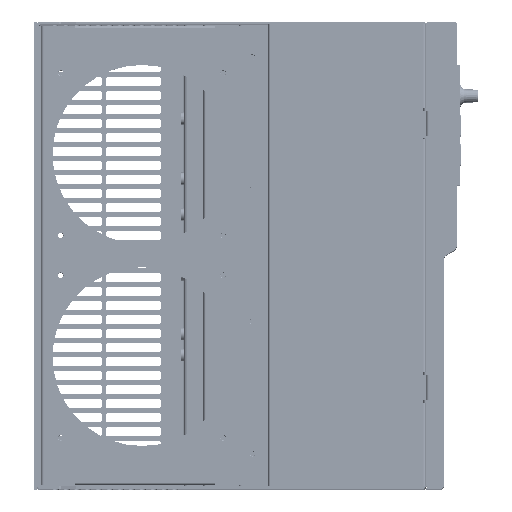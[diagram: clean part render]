
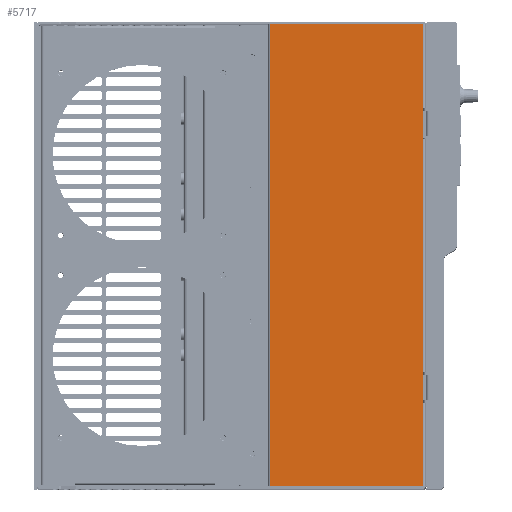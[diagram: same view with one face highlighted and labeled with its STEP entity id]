
A CAD part, top view. The second image highlights one B-rep face of the part: STEP entity #5717.
In plain terms, the highlighted planar face has unit normal (0, 0, 1) as drawn and (0, -1, 0) by its records, which use the part's own axes.
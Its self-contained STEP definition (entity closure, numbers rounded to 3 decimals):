
#5717=ADVANCED_FACE('',(#21139),#21141,.T.);
#21139=FACE_BOUND('',#21140,.T.);
#21140=EDGE_LOOP('',(#48331,#48332,#48333,#48334,#48335,#48336,#48337,#48338));
#21141=PLANE('',#21142);
#21142=AXIS2_PLACEMENT_3D('',#21143,#21144,#21145);
#21143=CARTESIAN_POINT('',(0.,0.,0.));
#21144=DIRECTION('',(0.,-1.,0.));
#21145=DIRECTION('',(-1.,0.,0.));
#48331=ORIENTED_EDGE('',*,*,#66245,.T.);
#48332=ORIENTED_EDGE('',*,*,#66236,.T.);
#48333=ORIENTED_EDGE('',*,*,#66246,.T.);
#48334=ORIENTED_EDGE('',*,*,#66239,.T.);
#48335=ORIENTED_EDGE('',*,*,#66247,.T.);
#48336=ORIENTED_EDGE('',*,*,#66248,.T.);
#48337=ORIENTED_EDGE('',*,*,#66249,.T.);
#48338=ORIENTED_EDGE('',*,*,#66232,.T.);
#66232=EDGE_CURVE('',#76701,#76699,#76702,.T.);
#66236=EDGE_CURVE('',#76704,#76706,#76708,.T.);
#66239=EDGE_CURVE('',#76709,#76711,#76713,.T.);
#66245=EDGE_CURVE('',#76699,#76704,#76721,.F.);
#66246=EDGE_CURVE('',#76706,#76709,#76722,.F.);
#66247=EDGE_CURVE('',#76711,#76723,#76724,.T.);
#66248=EDGE_CURVE('',#76723,#76725,#76726,.T.);
#66249=EDGE_CURVE('',#76725,#76701,#76727,.T.);
#76699=VERTEX_POINT('',#95800);
#76701=VERTEX_POINT('',#95805);
#76702=LINE('',#95806,#95807);
#76704=VERTEX_POINT('',#95813);
#76706=VERTEX_POINT('',#95818);
#76708=LINE('',#95823,#95824);
#76709=VERTEX_POINT('',#95826);
#76711=VERTEX_POINT('',#95831);
#76713=LINE('',#95836,#95837);
#76721=LINE('',#95856,#95857);
#76722=LINE('',#95859,#95860);
#76723=VERTEX_POINT('',#95862);
#76724=LINE('',#95863,#95864);
#76725=VERTEX_POINT('',#95866);
#76726=LINE('',#95867,#95868);
#76727=LINE('',#95870,#95871);
#95800=CARTESIAN_POINT('',(-118.4,0.,95.));
#95805=CARTESIAN_POINT('',(-118.4,0.,148.5));
#95806=CARTESIAN_POINT('',(-118.4,0.,148.5));
#95807=VECTOR('',#95808,1.);
#95808=DIRECTION('',(0.,0.,-1.));
#95813=CARTESIAN_POINT('',(-118.4,0.,75.));
#95818=CARTESIAN_POINT('',(-118.4,0.,-75.));
#95823=CARTESIAN_POINT('',(-118.4,0.,75.));
#95824=VECTOR('',#95825,1.);
#95825=DIRECTION('',(0.,0.,-1.));
#95826=CARTESIAN_POINT('',(-118.4,0.,-95.));
#95831=CARTESIAN_POINT('',(-118.4,0.,-148.5));
#95836=CARTESIAN_POINT('',(-118.4,0.,-95.));
#95837=VECTOR('',#95838,1.);
#95838=DIRECTION('',(0.,0.,-1.));
#95856=CARTESIAN_POINT('',(-118.4,0.,75.));
#95857=VECTOR('',#95858,1.);
#95858=DIRECTION('',(0.,0.,1.));
#95859=CARTESIAN_POINT('',(-118.4,0.,-95.));
#95860=VECTOR('',#95861,1.);
#95861=DIRECTION('',(0.,0.,1.));
#95862=CARTESIAN_POINT('',(-20.1,0.,-148.5));
#95863=CARTESIAN_POINT('',(-118.4,0.,-148.5));
#95864=VECTOR('',#95865,1.);
#95865=DIRECTION('',(1.,0.,0.));
#95866=CARTESIAN_POINT('',(-20.1,0.,148.5));
#95867=CARTESIAN_POINT('',(-20.1,0.,-148.5));
#95868=VECTOR('',#95869,1.);
#95869=DIRECTION('',(0.,0.,1.));
#95870=CARTESIAN_POINT('',(-20.1,0.,148.5));
#95871=VECTOR('',#95872,1.);
#95872=DIRECTION('',(-1.,0.,0.));
